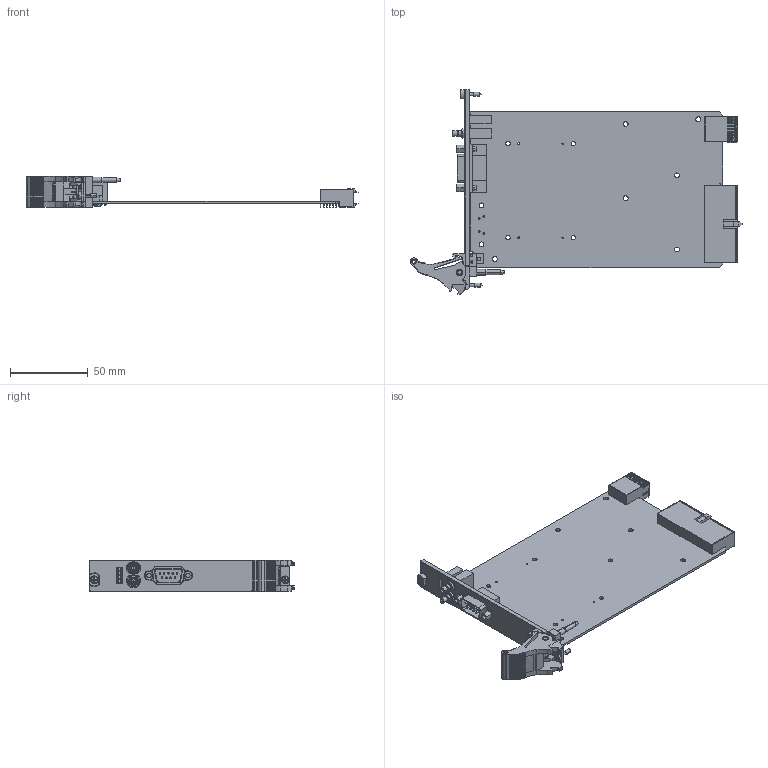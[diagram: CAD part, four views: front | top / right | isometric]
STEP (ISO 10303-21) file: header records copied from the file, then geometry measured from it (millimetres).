
FILE_DESCRIPTION((''),'2;1');
FILE_NAME('CU_PXI-8513_1','2009-02-19T',('dcrowder'),(''),'PRO/ENGINEER BY PARAMETRIC TECHNOLOGY CORPORATION, 2006080','PRO/ENGINEER BY PARAMETRIC TECHNOLOGY CORPORATION, 2006080','');
FILE_SCHEMA(('CONFIG_CONTROL_DESIGN'));
Products named in the file (1): CU_PXI-8513_1
Bounding box: 213.24 x 131.56 x 20.19 mm (x, y, z)
Volume: 54994.5 mm3; surface area: 54817.5 mm2
Topology: 2 solids, 2 shells, 2534 faces, 6665 edges, 4300 vertices
Faces by surface type: plane 1646, cylinder 739, bspline 65, cone 46, sphere 22, torus 12, extrusion 4
Entity records: 89946 total; most frequent: CARTESIAN_POINT 26355, ORIENTED_EDGE 13314, DIRECTION 12961, EDGE_CURVE 6657, VECTOR 4573, LINE 4569, VERTEX_POINT 4319, AXIS2_PLACEMENT_3D 4194
